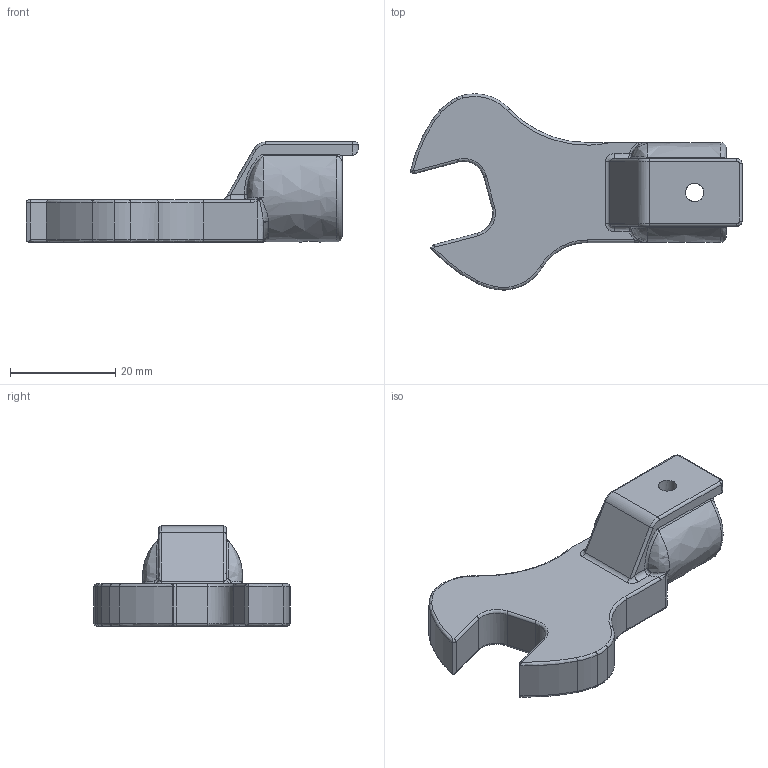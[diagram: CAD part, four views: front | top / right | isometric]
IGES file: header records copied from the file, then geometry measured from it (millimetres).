
Global section: file name: SH12DX14; native system: Autodesk Inventor 2016; preprocessor: unknown; author: Q510A; date: 20151029.190230; units: millimetre
Bounding box: 63.06 x 37.27 x 19 mm (x, y, z)
Volume: 10994 mm3; surface area: 5051.3 mm2
Topology: 1 solids, 1 shells, 133 faces, 327 edges, 190 vertices
Faces by surface type: bspline 133
